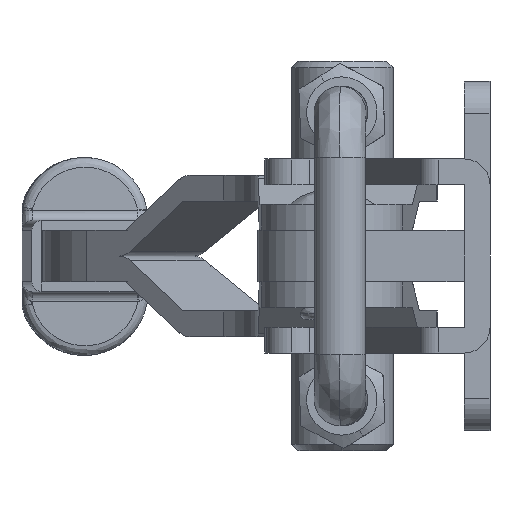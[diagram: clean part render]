
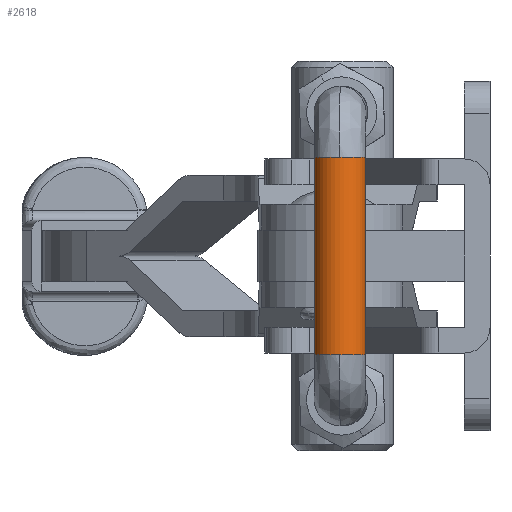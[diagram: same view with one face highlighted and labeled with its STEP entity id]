
A CAD part, left-side view. The second image highlights one B-rep face of the part: STEP entity #2618.
In plain terms, the highlighted cylindrical face has radius 4 mm (diameter 8 mm), a partial arc.
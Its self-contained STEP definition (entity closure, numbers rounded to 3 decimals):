
#2063 = EDGE_CURVE ( 'NONE', #9396, #37358, #16127, .T. ) ;
#2618 = ADVANCED_FACE ( 'NONE', ( #28319 ), #52890, .T. ) ;
#9396 = VERTEX_POINT ( 'NONE', #97865 ) ;
#10587 = DIRECTION ( 'NONE',  ( 0., -1., 0. ) ) ;
#10925 = DIRECTION ( 'NONE',  ( 0., 0., 1. ) ) ;
#12558 = CIRCLE ( 'NONE', #51545, 4. ) ;
#15421 = ORIENTED_EDGE ( 'NONE', *, *, #70316, .T. ) ;
#16127 = CIRCLE ( 'NONE', #24851, 4. ) ;
#21324 = ORIENTED_EDGE ( 'NONE', *, *, #44368, .T. ) ;
#22596 = LINE ( 'NONE', #34216, #36072 ) ;
#24851 = AXIS2_PLACEMENT_3D ( 'NONE', #42563, #26432, #65465 ) ;
#25862 = DIRECTION ( 'NONE',  ( 0., 1., 0. ) ) ;
#26432 = DIRECTION ( 'NONE',  ( 0., 1., 0. ) ) ;
#28319 = FACE_OUTER_BOUND ( 'NONE', #80842, .T. ) ;
#28985 = CARTESIAN_POINT ( 'NONE',  ( 111., 7., 0. ) ) ;
#34216 = CARTESIAN_POINT ( 'NONE',  ( 111., 7., 4. ) ) ;
#36072 = VECTOR ( 'NONE', #10587, 1000. ) ;
#37358 = VERTEX_POINT ( 'NONE', #96465 ) ;
#42221 = ORIENTED_EDGE ( 'NONE', *, *, #57648, .T. ) ;
#42563 = CARTESIAN_POINT ( 'NONE',  ( 111., 7., 0. ) ) ;
#42766 = CARTESIAN_POINT ( 'NONE',  ( 111., 37.5, 0. ) ) ;
#44368 = EDGE_CURVE ( 'NONE', #50103, #9396, #22596, .T. ) ;
#45770 = DIRECTION ( 'NONE',  ( 0., 1., 0. ) ) ;
#50103 = VERTEX_POINT ( 'NONE', #71947 ) ;
#51545 = AXIS2_PLACEMENT_3D ( 'NONE', #42766, #73231, #10925 ) ;
#52890 = CYLINDRICAL_SURFACE ( 'NONE', #74079, 4. ) ;
#57648 = EDGE_CURVE ( 'NONE', #37358, #75266, #93530, .T. ) ;
#60763 = ORIENTED_EDGE ( 'NONE', *, *, #2063, .T. ) ;
#65325 = VECTOR ( 'NONE', #25862, 1000. ) ;
#65465 = DIRECTION ( 'NONE',  ( 0., 0., 1. ) ) ;
#70316 = EDGE_CURVE ( 'NONE', #75266, #50103, #12558, .T. ) ;
#71947 = CARTESIAN_POINT ( 'NONE',  ( 111., 37.5, 4. ) ) ;
#73231 = DIRECTION ( 'NONE',  ( 0., -1., 0. ) ) ;
#74079 = AXIS2_PLACEMENT_3D ( 'NONE', #28985, #45770, #75900 ) ;
#74895 = CARTESIAN_POINT ( 'NONE',  ( 111., 37.5, -4. ) ) ;
#75266 = VERTEX_POINT ( 'NONE', #74895 ) ;
#75900 = DIRECTION ( 'NONE',  ( 0., 0., 1. ) ) ;
#80842 = EDGE_LOOP ( 'NONE', ( #15421, #21324, #60763, #42221 ) ) ;
#89185 = CARTESIAN_POINT ( 'NONE',  ( 111., 7., -4. ) ) ;
#93530 = LINE ( 'NONE', #89185, #65325 ) ;
#96465 = CARTESIAN_POINT ( 'NONE',  ( 111., 7., -4. ) ) ;
#97865 = CARTESIAN_POINT ( 'NONE',  ( 111., 7., 4. ) ) ;
